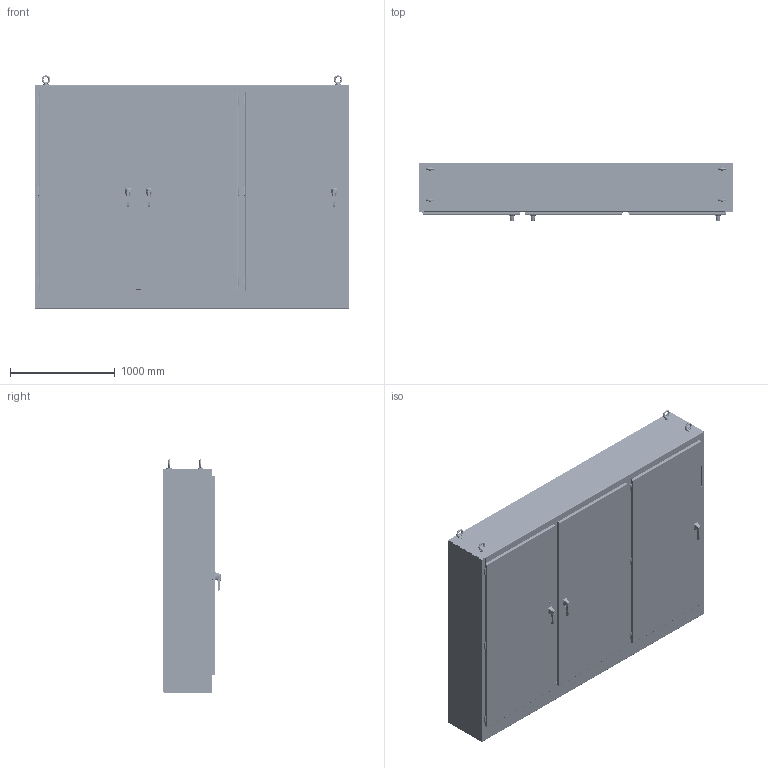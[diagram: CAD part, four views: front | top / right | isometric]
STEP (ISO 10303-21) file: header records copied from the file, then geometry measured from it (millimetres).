
FILE_DESCRIPTION(/* description */ ('Unknown'),/* implementation_level */ '2;1');
FILE_NAME(/* name */ '3UHD8411918FTC',/* time_stamp */ '2018-12-07T15:39:47-05:00',/* author */ ('Unknown'),/* organization */ ('Unknown'),/* preprocessor_version */ 'ST-DEVELOPER v16.7',/* originating_system */ 'DEX',/* authorisation */ $);
FILE_SCHEMA (('AUTOMOTIVE_DESIGN {1 0 10303 214 3 1 1}'));
Products named in the file (131): 3UHD8411918FTC; COM54330-5; COM50553; COM54321-2; COM70995-2; COM49886; COM54274-3; COM52460-3; COM54275-3; COM50495; STD26093; COM54357-2; COM54323-2; COM70990-2; COM50475; COM70989-2; COM70988; COM54352-7; COM54351-7; STD21878; STD26265; HNG14563; HNG14563B; COM50504; SCS87730; HAN13064; HAN13064_SCREW; HAN13064_NUT; HAN_NUT; HAN13060; HAN13060_SCREW; HAN13060_NUT; GRM11006; COM50502; COM54277-8; COM54276-8; std26020; NTS17050; SCS19383; COM50492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
Assembly tree (318 placements, depth 4):
  3UHD8411918FTC
    COM54330-5
    COM50553  x4
    COM54321-2
    COM70995-2
    COM49886  x2
    COM54274-3
    COM52460-3  x3
    COM54275-3
    COM50495
      COM50495
      STD26093  x2
    COM54357-2
    COM54323-2
    COM70990-2
      STD26093  x2
      COM50475
      COM70989-2
      COM70988  x2
    COM54352-7
      COM54351-7
      STD21878
      STD26265  x2
      HNG14563  x3
      HNG14563B  x3
    COM50504
    SCS87730  x13
    HAN13064  x2
      HAN13064
      HAN13064_SCREW
      HAN13064_NUT
      HAN_NUT
    HAN13060
      HAN13060
      HAN13060_SCREW
      HAN13060_NUT
      HAN_NUT
    GRM11006
    COM50502
    COM54277-8
      COM54276-8
      STD21878
      STD26265  x2
      std26020  x4
      HNG14563  x3
      HNG14563B  x3
    NTS17050  x2
    SCS19383  x2
    COM50492
    NTS16526  x3
    NTS16697  x13
    COM52453
    COM50500  x2
    COM70905-2
      COM70905-2
      STD87135
    SCS19384
    STD21878  x3
    WAM254785  x4
    WAF25363  x4
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Bounding box: 3003.55 x 545.2 x 2230.05 mm (x, y, z)
Volume: 86161667.8 mm3; surface area: 54505835.7 mm2
Topology: 316 solids, 316 shells, 10034 faces, 24964 edges, 16512 vertices
Faces by surface type: plane 7358, cylinder 1321, bspline 984, cone 198, torus 114, sphere 59
Full cylindrical faces by diameter (mm): 3.68 x2, 3.967 x2, 4.249 x3, 4.394 x3, 4.75 x5, 4.775 x4, 4.928 x1, 4.976 x19, 4.978 x3, 5.105 x6, 5.461 x4, 5.563 x2, 5.893 x3, 5.918 x3, 6.248 x13, 6.325 x1, 6.35 x51, 6.477 x3, 6.528 x12, 6.731 x1, 6.756 x7, 6.985 x2, 7.112 x12, 7.137 x24, 7.163 x2, 7.366 x2, 7.442 x6, 7.805 x17, 7.938 x6, 7.95 x24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
Entity records: 237912 total; most frequent: CARTESIAN_POINT 97421, ORIENTED_EDGE 31260, DIRECTION 21799, EDGE_CURVE 15630, VERTEX_POINT 10528, EDGE_LOOP 7520, FACE_BOUND 7520, AXIS2_PLACEMENT_3D 7292
